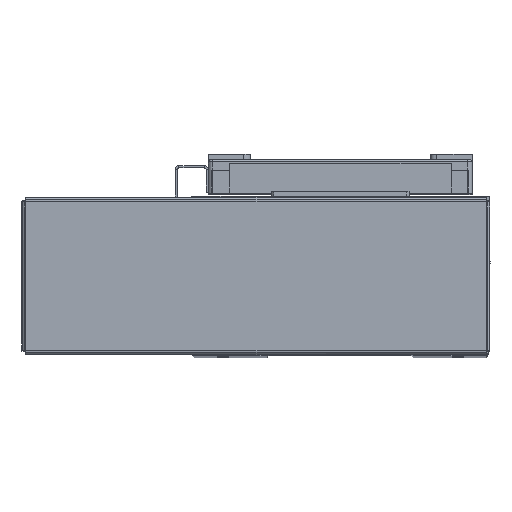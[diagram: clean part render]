
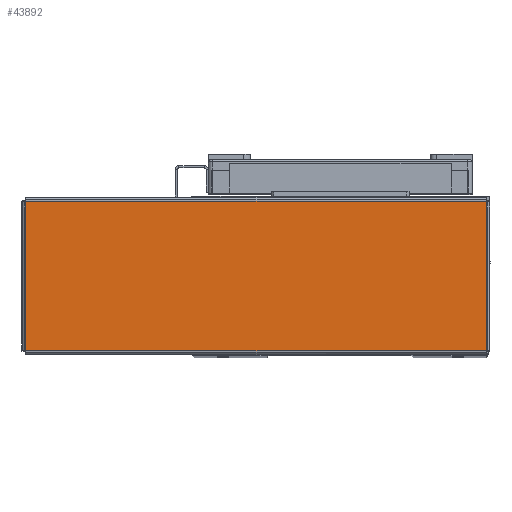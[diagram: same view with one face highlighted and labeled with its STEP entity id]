
A CAD part, top view. The second image highlights one B-rep face of the part: STEP entity #43892.
In plain terms, the highlighted planar face has unit normal (0, 0, 1) as drawn and (0, -1, 0) by its records, which use the part's own axes.
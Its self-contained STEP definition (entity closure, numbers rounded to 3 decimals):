
#2136 = EDGE_CURVE ( 'NONE', #48611, #48638, #42478, .T. ) ;
#2186 = EDGE_CURVE ( 'NONE', #48692, #48611, #42578, .T. ) ;
#2214 = EDGE_CURVE ( 'NONE', #48638, #48656, #42543, .T. ) ;
#2219 = EDGE_CURVE ( 'NONE', #48656, #48692, #42590, .T. ) ;
#12948 = CARTESIAN_POINT ( 'NONE',  ( -103.793, -1., -33.763 ) ) ;
#12952 = DIRECTION ( 'NONE',  ( 1., 0., 0. ) ) ;
#13033 = CARTESIAN_POINT ( 'NONE',  ( -103.763, -1., 33.793 ) ) ;
#13097 = DIRECTION ( 'NONE',  ( 0., 0., -1. ) ) ;
#13150 = DIRECTION ( 'NONE',  ( -1., 0., 0. ) ) ;
#13162 = CARTESIAN_POINT ( 'NONE',  ( 103.763, -1., -33.793 ) ) ;
#13194 = DIRECTION ( 'NONE',  ( 0., 0., 1. ) ) ;
#13208 = CARTESIAN_POINT ( 'NONE',  ( 103.793, -1., 33.763 ) ) ;
#15057 = FACE_OUTER_BOUND ( 'NONE', #47919, .T. ) ;
#33774 = AXIS2_PLACEMENT_3D ( 'NONE', #55670, #55647, #55635 ) ;
#35212 = ORIENTED_EDGE ( 'NONE', *, *, #2186, .T. ) ;
#35218 = ORIENTED_EDGE ( 'NONE', *, *, #2219, .T. ) ;
#35267 = ORIENTED_EDGE ( 'NONE', *, *, #2136, .T. ) ;
#35278 = ORIENTED_EDGE ( 'NONE', *, *, #2214, .T. ) ;
#42478 = LINE ( 'NONE', #12948, #42503 ) ;
#42503 = VECTOR ( 'NONE', #12952, 1000. ) ;
#42543 = LINE ( 'NONE', #13162, #42544 ) ;
#42544 = VECTOR ( 'NONE', #13194, 1000. ) ;
#42551 = VECTOR ( 'NONE', #13097, 1000. ) ;
#42578 = LINE ( 'NONE', #13033, #42551 ) ;
#42586 = VECTOR ( 'NONE', #13150, 1000. ) ;
#42590 = LINE ( 'NONE', #13208, #42586 ) ;
#43892 = ADVANCED_FACE ( 'NONE', ( #15057 ), #55633, .F. ) ;
#47919 = EDGE_LOOP ( 'NONE', ( #35218, #35212, #35267, #35278 ) ) ;
#48611 = VERTEX_POINT ( 'NONE', #58458 ) ;
#48638 = VERTEX_POINT ( 'NONE', #58456 ) ;
#48656 = VERTEX_POINT ( 'NONE', #58410 ) ;
#48692 = VERTEX_POINT ( 'NONE', #58489 ) ;
#55633 = PLANE ( 'NONE',  #33774 ) ;
#55635 = DIRECTION ( 'NONE',  ( 0., 0., 1. ) ) ;
#55647 = DIRECTION ( 'NONE',  ( 0., 1., 0. ) ) ;
#55670 = CARTESIAN_POINT ( 'NONE',  ( 0., -1., 0. ) ) ;
#58410 = CARTESIAN_POINT ( 'NONE',  ( 103.763, -1., 33.763 ) ) ;
#58456 = CARTESIAN_POINT ( 'NONE',  ( 103.763, -1., -33.763 ) ) ;
#58458 = CARTESIAN_POINT ( 'NONE',  ( -103.763, -1., -33.763 ) ) ;
#58489 = CARTESIAN_POINT ( 'NONE',  ( -103.763, -1., 33.763 ) ) ;
